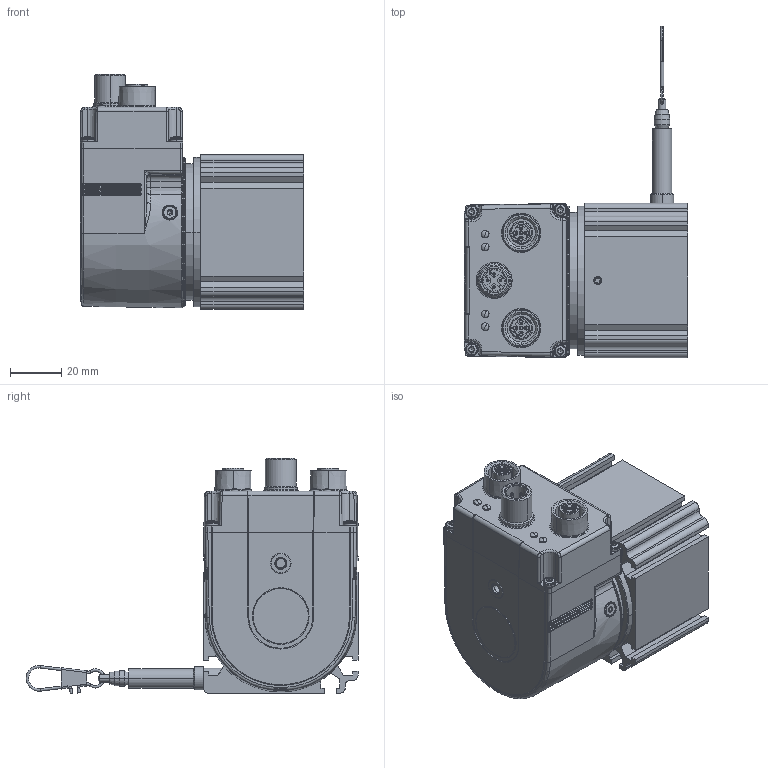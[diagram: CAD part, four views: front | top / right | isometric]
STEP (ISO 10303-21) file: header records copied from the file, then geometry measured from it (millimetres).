
FILE_DESCRIPTION((''),'2;1');
FILE_NAME('WDS-1500-P60-BH-PN_02_ASM','2024-05-21T14:27:20',('15000597'),(''),'CREO PARAMETRIC BY PTC INC, 2022164','CREO PARAMETRIC BY PTC INC, 2022164','');
FILE_SCHEMA(('AUTOMOTIVE_DESIGN { 1 0 10303 214 1 1 1 1 }'));
Products named in the file (9): BAU_KLEMM_PN_EAL580-SC0I4WPTI13_AF0; ADAPTER_36_AF2; TELESO_SENZORU_P60_150_AF0; VIKO_PR55_TL1MM; PRUCHODKA_LANKA_P60_AF4; SROUB_ISO4026_STAV_HEX_M3X3_AF2; SROUB_ISO4026_STAV_HEX_M3X3_AF3; KARABINKA25_AF1; WDS-1500-P60-BH-PN_02_ASM
Assembly tree (8 placements, depth 2):
  WDS-1500-P60-BH-PN_02_ASM
    BAU_KLEMM_PN_EAL580-SC0I4WPTI13_AF0
    ADAPTER_36_AF2
    TELESO_SENZORU_P60_150_AF0
    VIKO_PR55_TL1MM
    PRUCHODKA_LANKA_P60_AF4
    SROUB_ISO4026_STAV_HEX_M3X3_AF2
    SROUB_ISO4026_STAV_HEX_M3X3_AF3
    KARABINKA25_AF1
Bounding box: 86.9 x 128.99 x 91.66 mm (x, y, z)
Volume: 220926.8 mm3; surface area: 58169.3 mm2
Topology: 8 solids, 14 shells, 1524 faces, 3988 edges, 2519 vertices
Faces by surface type: plane 708, cylinder 384, torus 163, cone 159, bspline 74, sphere 36
Entity records: 81966 total; most frequent: CARTESIAN_POINT 22703, ORIENTED_EDGE 7870, DIRECTION 7750, PRESENTATION_STYLE_ASSIGNMENT 5266, STYLED_ITEM 5262, CURVE_STYLE 3948, EDGE_CURVE 3948, AXIS2_PLACEMENT_3D 2789
